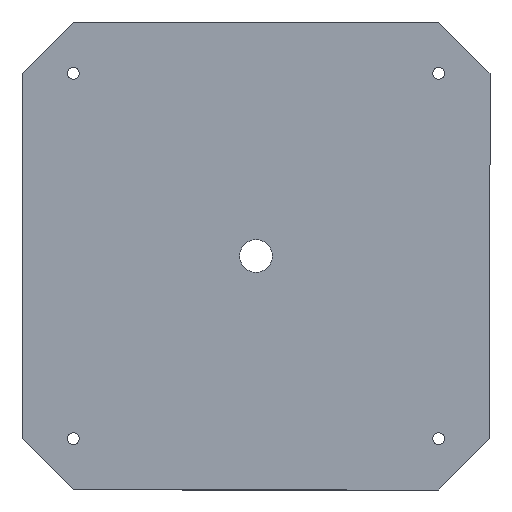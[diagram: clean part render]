
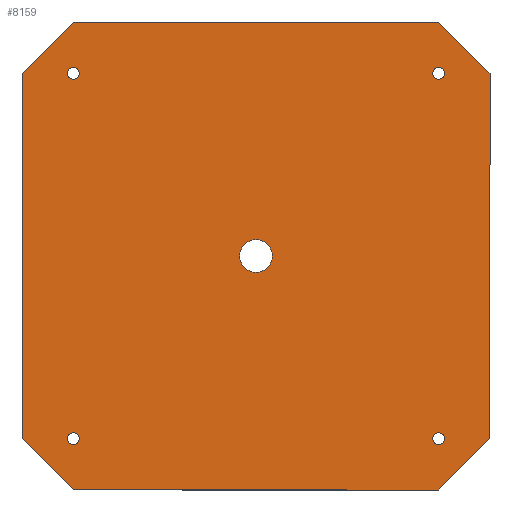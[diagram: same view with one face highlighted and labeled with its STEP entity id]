
A CAD part, front view. The second image highlights one B-rep face of the part: STEP entity #8159.
In plain terms, the highlighted planar face has unit normal (0, -1, 0).
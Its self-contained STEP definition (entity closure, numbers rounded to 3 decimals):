
#44 = AXIS2_PLACEMENT_3D ( 'NONE', #68647, #1399, #34405 ) ;
#545 = EDGE_CURVE ( 'NONE', #11429, #20496, #47376, .T. ) ;
#1338 = EDGE_CURVE ( 'NONE', #48328, #48328, #68670, .T. ) ;
#1399 = DIRECTION ( 'NONE',  ( 0., 1., 0. ) ) ;
#2214 = EDGE_CURVE ( 'NONE', #28714, #18497, #60886, .T. ) ;
#2414 = VERTEX_POINT ( 'NONE', #46447 ) ;
#3441 = CARTESIAN_POINT ( 'NONE',  ( -71., 0., -91. ) ) ;
#3463 = EDGE_CURVE ( 'NONE', #11429, #27048, #14208, .T. ) ;
#3951 = CARTESIAN_POINT ( 'NONE',  ( 91., 0., 71. ) ) ;
#4216 = ORIENTED_EDGE ( 'NONE', *, *, #3463, .T. ) ;
#5914 = CIRCLE ( 'NONE', #29498, 2.25 ) ;
#6534 = DIRECTION ( 'NONE',  ( 0., 0., 1. ) ) ;
#7288 = EDGE_CURVE ( 'NONE', #49278, #46277, #50821, .T. ) ;
#7292 = CARTESIAN_POINT ( 'NONE',  ( 71., 0., -91. ) ) ;
#7335 = VECTOR ( 'NONE', #33798, 1000. ) ;
#8159 = ADVANCED_FACE ( 'NONE', ( #41468, #8455, #40189, #34949, #66700, #33687 ), #70077, .F. ) ;
#8455 = FACE_BOUND ( 'NONE', #56085, .T. ) ;
#9090 = VECTOR ( 'NONE', #68636, 1000. ) ;
#9447 = CIRCLE ( 'NONE', #12260, 2.25 ) ;
#10572 = CARTESIAN_POINT ( 'NONE',  ( 0., 0., 0. ) ) ;
#10724 = ORIENTED_EDGE ( 'NONE', *, *, #82827, .T. ) ;
#11225 = CARTESIAN_POINT ( 'NONE',  ( 71., 0., -91. ) ) ;
#11429 = VERTEX_POINT ( 'NONE', #11225 ) ;
#12164 = CARTESIAN_POINT ( 'NONE',  ( -91., 0., -71. ) ) ;
#12260 = AXIS2_PLACEMENT_3D ( 'NONE', #65192, #85121, #6534 ) ;
#12597 = CARTESIAN_POINT ( 'NONE',  ( -71., 0., -68.75 ) ) ;
#12628 = DIRECTION ( 'NONE',  ( -1., 0., 0. ) ) ;
#13006 = VERTEX_POINT ( 'NONE', #26544 ) ;
#13078 = DIRECTION ( 'NONE',  ( 0., 0., 1. ) ) ;
#13451 = VECTOR ( 'NONE', #78591, 1000. ) ;
#14208 = LINE ( 'NONE', #7292, #7335 ) ;
#15103 = VECTOR ( 'NONE', #56098, 1000. ) ;
#15212 = ORIENTED_EDGE ( 'NONE', *, *, #545, .F. ) ;
#15516 = EDGE_LOOP ( 'NONE', ( #37592, #23428, #15212, #4216, #78021, #72794, #29137, #76864 ) ) ;
#15735 = EDGE_CURVE ( 'NONE', #72962, #72962, #5914, .T. ) ;
#15883 = ORIENTED_EDGE ( 'NONE', *, *, #15735, .T. ) ;
#18065 = AXIS2_PLACEMENT_3D ( 'NONE', #10572, #83524, #69638 ) ;
#18497 = VERTEX_POINT ( 'NONE', #44439 ) ;
#19817 = DIRECTION ( 'NONE',  ( 0., 0., 1. ) ) ;
#20033 = VECTOR ( 'NONE', #33885, 1000. ) ;
#20429 = CARTESIAN_POINT ( 'NONE',  ( 71., 0., -68.75 ) ) ;
#20496 = VERTEX_POINT ( 'NONE', #3441 ) ;
#23428 = ORIENTED_EDGE ( 'NONE', *, *, #26543, .T. ) ;
#23571 = EDGE_LOOP ( 'NONE', ( #85522 ) ) ;
#24185 = CIRCLE ( 'NONE', #35236, 6.35 ) ;
#24567 = EDGE_CURVE ( 'NONE', #13006, #13006, #24185, .T. ) ;
#26120 = VERTEX_POINT ( 'NONE', #46470 ) ;
#26188 = CARTESIAN_POINT ( 'NONE',  ( -71., 0., 71. ) ) ;
#26543 = EDGE_CURVE ( 'NONE', #28714, #20496, #71197, .T. ) ;
#26544 = CARTESIAN_POINT ( 'NONE',  ( 0., 0., 6.35 ) ) ;
#27048 = VERTEX_POINT ( 'NONE', #62574 ) ;
#27262 = CARTESIAN_POINT ( 'NONE',  ( 91., 0., 71. ) ) ;
#27771 = CIRCLE ( 'NONE', #44, 2.25 ) ;
#28714 = VERTEX_POINT ( 'NONE', #57649 ) ;
#29137 = ORIENTED_EDGE ( 'NONE', *, *, #40826, .F. ) ;
#29437 = EDGE_CURVE ( 'NONE', #26120, #26120, #27771, .T. ) ;
#29498 = AXIS2_PLACEMENT_3D ( 'NONE', #53277, #80147, #19817 ) ;
#29901 = LINE ( 'NONE', #43282, #32441 ) ;
#30056 = ORIENTED_EDGE ( 'NONE', *, *, #29437, .T. ) ;
#32186 = VERTEX_POINT ( 'NONE', #12597 ) ;
#32441 = VECTOR ( 'NONE', #69778, 1000. ) ;
#33687 = FACE_OUTER_BOUND ( 'NONE', #15516, .T. ) ;
#33798 = DIRECTION ( 'NONE',  ( 0.707, 0., 0.707 ) ) ;
#33885 = DIRECTION ( 'NONE',  ( 0., 0., -1. ) ) ;
#34405 = DIRECTION ( 'NONE',  ( 0., 0., 1. ) ) ;
#34949 = FACE_BOUND ( 'NONE', #68108, .T. ) ;
#35236 = AXIS2_PLACEMENT_3D ( 'NONE', #53543, #79982, #67388 ) ;
#36263 = VECTOR ( 'NONE', #41903, 1000. ) ;
#37592 = ORIENTED_EDGE ( 'NONE', *, *, #2214, .F. ) ;
#40189 = FACE_BOUND ( 'NONE', #77842, .T. ) ;
#40544 = CARTESIAN_POINT ( 'NONE',  ( -71., 0., 73.25 ) ) ;
#40826 = EDGE_CURVE ( 'NONE', #2414, #46277, #67132, .T. ) ;
#41468 = FACE_BOUND ( 'NONE', #60111, .T. ) ;
#41649 = CARTESIAN_POINT ( 'NONE',  ( 91., 0., 91. ) ) ;
#41903 = DIRECTION ( 'NONE',  ( 1., 0., 0. ) ) ;
#42342 = ORIENTED_EDGE ( 'NONE', *, *, #1338, .T. ) ;
#43282 = CARTESIAN_POINT ( 'NONE',  ( -71., 0., 91. ) ) ;
#43603 = EDGE_CURVE ( 'NONE', #49278, #27048, #60805, .T. ) ;
#44439 = CARTESIAN_POINT ( 'NONE',  ( -91., 0., 71. ) ) ;
#46277 = VERTEX_POINT ( 'NONE', #58581 ) ;
#46447 = CARTESIAN_POINT ( 'NONE',  ( -71., 0., 91. ) ) ;
#46470 = CARTESIAN_POINT ( 'NONE',  ( 71., 0., 73.25 ) ) ;
#47376 = LINE ( 'NONE', #72143, #82343 ) ;
#47801 = EDGE_CURVE ( 'NONE', #2414, #18497, #29901, .T. ) ;
#48328 = VERTEX_POINT ( 'NONE', #40544 ) ;
#49278 = VERTEX_POINT ( 'NONE', #27262 ) ;
#50821 = LINE ( 'NONE', #3951, #15103 ) ;
#53277 = CARTESIAN_POINT ( 'NONE',  ( 71., 0., -71. ) ) ;
#53543 = CARTESIAN_POINT ( 'NONE',  ( 0., 0., 0. ) ) ;
#56085 = EDGE_LOOP ( 'NONE', ( #42342 ) ) ;
#56098 = DIRECTION ( 'NONE',  ( -0.707, 0., 0.707 ) ) ;
#57649 = CARTESIAN_POINT ( 'NONE',  ( -91., 0., -71. ) ) ;
#58581 = CARTESIAN_POINT ( 'NONE',  ( 71., 0., 91. ) ) ;
#60111 = EDGE_LOOP ( 'NONE', ( #15883 ) ) ;
#60805 = LINE ( 'NONE', #41649, #20033 ) ;
#60886 = LINE ( 'NONE', #61297, #9090 ) ;
#61297 = CARTESIAN_POINT ( 'NONE',  ( -91., 0., -91. ) ) ;
#62574 = CARTESIAN_POINT ( 'NONE',  ( 91., 0., -71. ) ) ;
#65192 = CARTESIAN_POINT ( 'NONE',  ( -71., 0., -71. ) ) ;
#66112 = DIRECTION ( 'NONE',  ( 0., 1., 0. ) ) ;
#66700 = FACE_BOUND ( 'NONE', #23571, .T. ) ;
#67132 = LINE ( 'NONE', #74907, #36263 ) ;
#67388 = DIRECTION ( 'NONE',  ( 0., 0., 1. ) ) ;
#68108 = EDGE_LOOP ( 'NONE', ( #10724 ) ) ;
#68636 = DIRECTION ( 'NONE',  ( 0., 0., 1. ) ) ;
#68647 = CARTESIAN_POINT ( 'NONE',  ( 71., 0., 71. ) ) ;
#68670 = CIRCLE ( 'NONE', #79808, 2.25 ) ;
#69638 = DIRECTION ( 'NONE',  ( 0., 0., 1. ) ) ;
#69778 = DIRECTION ( 'NONE',  ( -0.707, 0., -0.707 ) ) ;
#70077 = PLANE ( 'NONE',  #18065 ) ;
#71197 = LINE ( 'NONE', #12164, #13451 ) ;
#72143 = CARTESIAN_POINT ( 'NONE',  ( 91., 0., -91. ) ) ;
#72794 = ORIENTED_EDGE ( 'NONE', *, *, #7288, .T. ) ;
#72962 = VERTEX_POINT ( 'NONE', #20429 ) ;
#74907 = CARTESIAN_POINT ( 'NONE',  ( -91., 0., 91. ) ) ;
#76864 = ORIENTED_EDGE ( 'NONE', *, *, #47801, .T. ) ;
#77842 = EDGE_LOOP ( 'NONE', ( #30056 ) ) ;
#78021 = ORIENTED_EDGE ( 'NONE', *, *, #43603, .F. ) ;
#78591 = DIRECTION ( 'NONE',  ( 0.707, 0., -0.707 ) ) ;
#79808 = AXIS2_PLACEMENT_3D ( 'NONE', #26188, #66112, #13078 ) ;
#79982 = DIRECTION ( 'NONE',  ( 0., 1., 0. ) ) ;
#80147 = DIRECTION ( 'NONE',  ( 0., 1., 0. ) ) ;
#82343 = VECTOR ( 'NONE', #12628, 1000. ) ;
#82827 = EDGE_CURVE ( 'NONE', #32186, #32186, #9447, .T. ) ;
#83524 = DIRECTION ( 'NONE',  ( 0., 1., 0. ) ) ;
#85121 = DIRECTION ( 'NONE',  ( 0., 1., 0. ) ) ;
#85522 = ORIENTED_EDGE ( 'NONE', *, *, #24567, .T. ) ;
